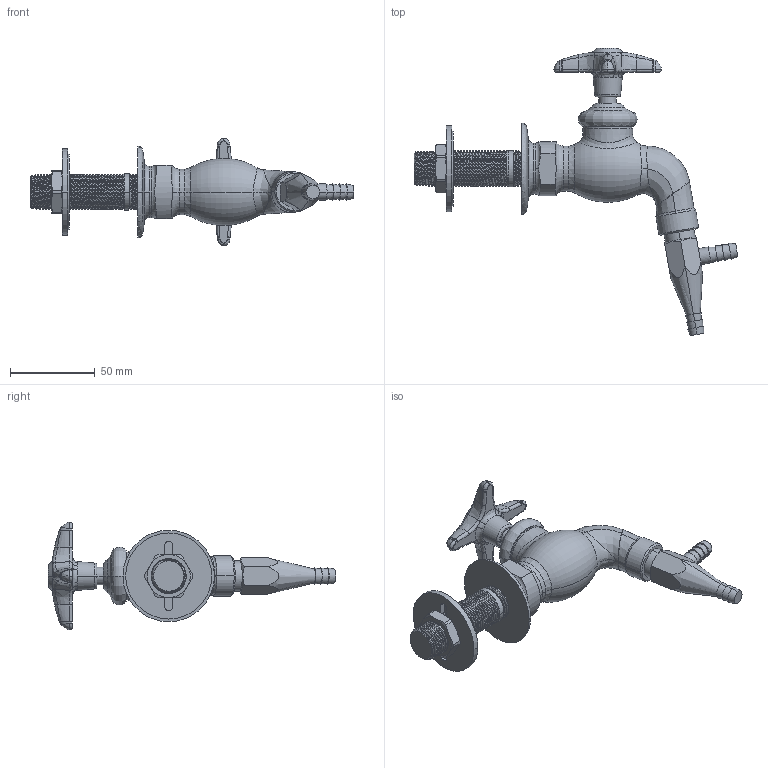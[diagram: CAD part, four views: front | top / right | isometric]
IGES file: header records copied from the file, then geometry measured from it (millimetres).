
Start section:  PTC IGES file: LWV4-B31.igs
Global section: file name: LWV4-B31.igs; native system: Creo Parametric by PTC Inc.; preprocessor: 2014500; author: usch_engrender; organization: Unknown; date: 20150915.131657; units: inch
Bounding box: 191.19 x 169.61 x 63.42 mm (x, y, z)
Volume: 160522.1 mm3; surface area: 38351.9 mm2
Topology: 1 solids, 5 shells, 521 faces, 1302 edges, 803 vertices
Faces by surface type: bspline 305, revolution 216
